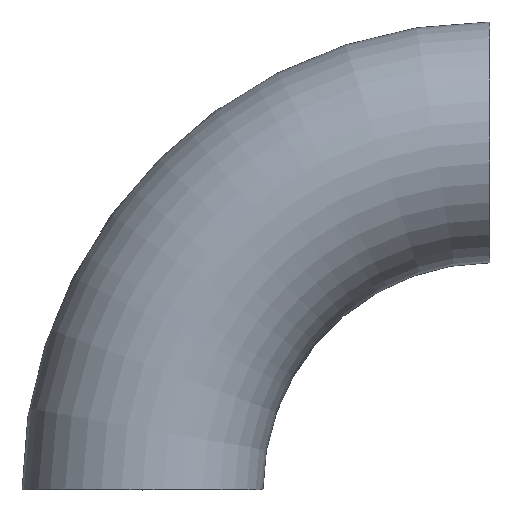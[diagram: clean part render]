
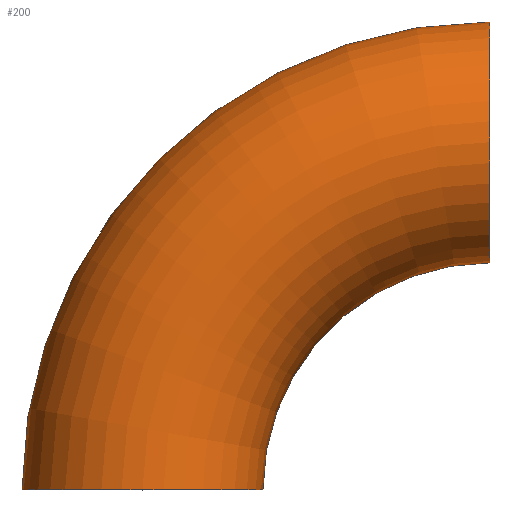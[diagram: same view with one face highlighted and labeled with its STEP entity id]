
A CAD part, top view. The second image highlights one B-rep face of the part: STEP entity #200.
In plain terms, the highlighted toroidal (fillet/blend) face has major radius 225 mm and minor radius 78 mm.
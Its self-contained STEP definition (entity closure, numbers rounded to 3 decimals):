
#9 = AXIS2_PLACEMENT_3D ( 'NONE', #194, #38, #59 ) ;
#10 = CIRCLE ( 'NONE', #195, 78. ) ;
#12 = CARTESIAN_POINT ( 'NONE',  ( 225., 225., 0. ) ) ;
#20 = DIRECTION ( 'NONE',  ( 0., 0., 1. ) ) ;
#36 = EDGE_CURVE ( 'NONE', #104, #155, #118, .T. ) ;
#37 = CARTESIAN_POINT ( 'NONE',  ( 78., 0., 0. ) ) ;
#38 = DIRECTION ( 'NONE',  ( 0., 0., 1. ) ) ;
#48 = VERTEX_POINT ( 'NONE', #148 ) ;
#49 = CARTESIAN_POINT ( 'NONE',  ( 225., 303., 0. ) ) ;
#53 = EDGE_CURVE ( 'NONE', #55, #48, #10, .T. ) ;
#55 = VERTEX_POINT ( 'NONE', #49 ) ;
#59 = DIRECTION ( 'NONE',  ( 1., 0., 0. ) ) ;
#79 = ORIENTED_EDGE ( 'NONE', *, *, #150, .T. ) ;
#96 = DIRECTION ( 'NONE',  ( 0., 0., 1. ) ) ;
#104 = VERTEX_POINT ( 'NONE', #146 ) ;
#108 = DIRECTION ( 'NONE',  ( 0., 1., 0. ) ) ;
#118 = CIRCLE ( 'NONE', #143, 78. ) ;
#119 = AXIS2_PLACEMENT_3D ( 'NONE', #134, #20, #218 ) ;
#126 = DIRECTION ( 'NONE',  ( 0., 0., 1. ) ) ;
#130 = EDGE_CURVE ( 'NONE', #48, #155, #142, .T. ) ;
#133 = EDGE_LOOP ( 'NONE', ( #196, #79, #213, #186 ) ) ;
#134 = CARTESIAN_POINT ( 'NONE',  ( 225., 0., 0. ) ) ;
#139 = FACE_OUTER_BOUND ( 'NONE', #133, .T. ) ;
#142 = CIRCLE ( 'NONE', #190, 147. ) ;
#143 = AXIS2_PLACEMENT_3D ( 'NONE', #168, #108, #126 ) ;
#146 = CARTESIAN_POINT ( 'NONE',  ( -78., 0., 0. ) ) ;
#148 = CARTESIAN_POINT ( 'NONE',  ( 225., 147., 0. ) ) ;
#150 = EDGE_CURVE ( 'NONE', #55, #104, #232, .T. ) ;
#155 = VERTEX_POINT ( 'NONE', #37 ) ;
#168 = CARTESIAN_POINT ( 'NONE',  ( 0., 0., 0. ) ) ;
#169 = DIRECTION ( 'NONE',  ( 0., 0., 1. ) ) ;
#174 = DIRECTION ( 'NONE',  ( 1., 0., 0. ) ) ;
#186 = ORIENTED_EDGE ( 'NONE', *, *, #130, .F. ) ;
#188 = DIRECTION ( 'NONE',  ( 1., 0., 0. ) ) ;
#190 = AXIS2_PLACEMENT_3D ( 'NONE', #212, #96, #174 ) ;
#194 = CARTESIAN_POINT ( 'NONE',  ( 225., 0., 0. ) ) ;
#195 = AXIS2_PLACEMENT_3D ( 'NONE', #12, #188, #169 ) ;
#196 = ORIENTED_EDGE ( 'NONE', *, *, #53, .F. ) ;
#200 = ADVANCED_FACE ( 'NONE', ( #139 ), #219, .T. ) ;
#212 = CARTESIAN_POINT ( 'NONE',  ( 225., 0., 0. ) ) ;
#213 = ORIENTED_EDGE ( 'NONE', *, *, #36, .T. ) ;
#218 = DIRECTION ( 'NONE',  ( 1., 0., 0. ) ) ;
#219 = TOROIDAL_SURFACE ( 'NONE', #9, 225., 78. ) ;
#232 = CIRCLE ( 'NONE', #119, 303. ) ;
